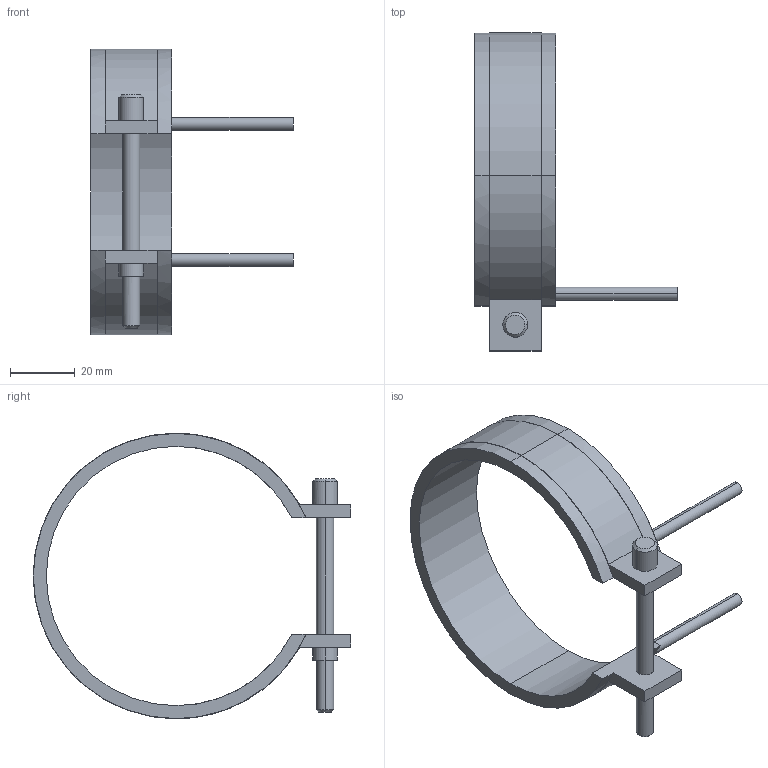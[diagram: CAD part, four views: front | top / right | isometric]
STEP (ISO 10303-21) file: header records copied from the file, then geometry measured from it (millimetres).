
FILE_DESCRIPTION(('CATIA V5 STEP Exchange'),'2;1');
FILE_NAME('C:\Users\Utente\Desktop\IO LAVORO\3D X SITO CF\X SITO\PLASTICA\RF2\14080025.stp','2021-04-03T08:06:37+00:00',('none'),('none'),'CATIA Version 5 Release 20 GA (IN-10)','CATIA V5 STEP AP203','none');
FILE_SCHEMA(('CONFIG_CONTROL_DESIGN'));
Length unit declared in the file: millimetre
Products named in the file (1): 14080025
Bounding box: 62.5 x 98.1 x 88.2 mm (x, y, z)
Volume: 27575.2 mm3; surface area: 16630.4 mm2
Topology: 1 solids, 1 shells, 45 faces, 116 edges, 76 vertices
Faces by surface type: cylinder 24, plane 17, cone 4
Entity records: 1418 total; most frequent: CARTESIAN_POINT 296, ORIENTED_EDGE 232, DIRECTION 194, EDGE_CURVE 116, AXIS2_PLACEMENT_3D 102, VERTEX_POINT 76, CIRCLE 60, VECTOR 52
